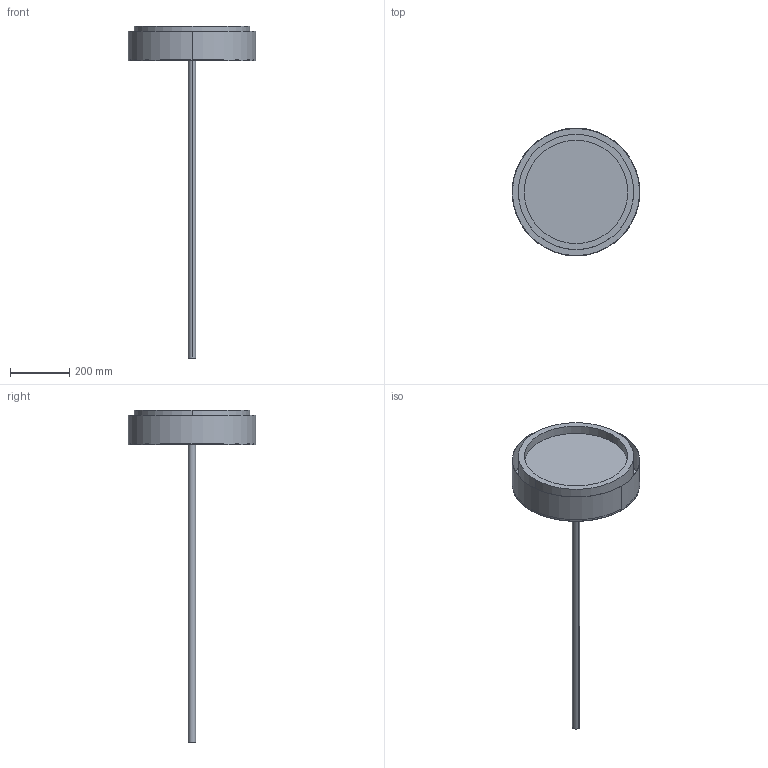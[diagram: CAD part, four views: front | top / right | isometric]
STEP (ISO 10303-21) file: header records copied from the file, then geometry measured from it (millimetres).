
FILE_DESCRIPTION (( 'STEP AP203' ), '1' );
FILE_NAME ('Okr¹g³a zwieszana 430mm.STEP', '2020-07-12T21:21:05', ( '' ), ( '' ), 'SwSTEP 2.0', 'SolidWorks 2012', '' );
FILE_SCHEMA (( 'CONFIG_CONTROL_DESIGN' ));
Length unit declared in the file: millimetre
Products named in the file (1): Okr鉚豉 zwieszana 430mm
Bounding box: 430 x 430 x 1117.6 mm (x, y, z)
Volume: 3782291.7 mm3; surface area: 1118428.3 mm2
Topology: 2 solids, 3 shells, 29 faces, 54 edges, 36 vertices
Faces by surface type: cylinder 17, plane 12
Full cylindrical faces by diameter (mm): 428.4 x1
Entity records: 819 total; most frequent: DIRECTION 148, CARTESIAN_POINT 120, ORIENTED_EDGE 108, AXIS2_PLACEMENT_3D 64, EDGE_CURVE 54, VERTEX_POINT 36, EDGE_LOOP 36, CIRCLE 34
